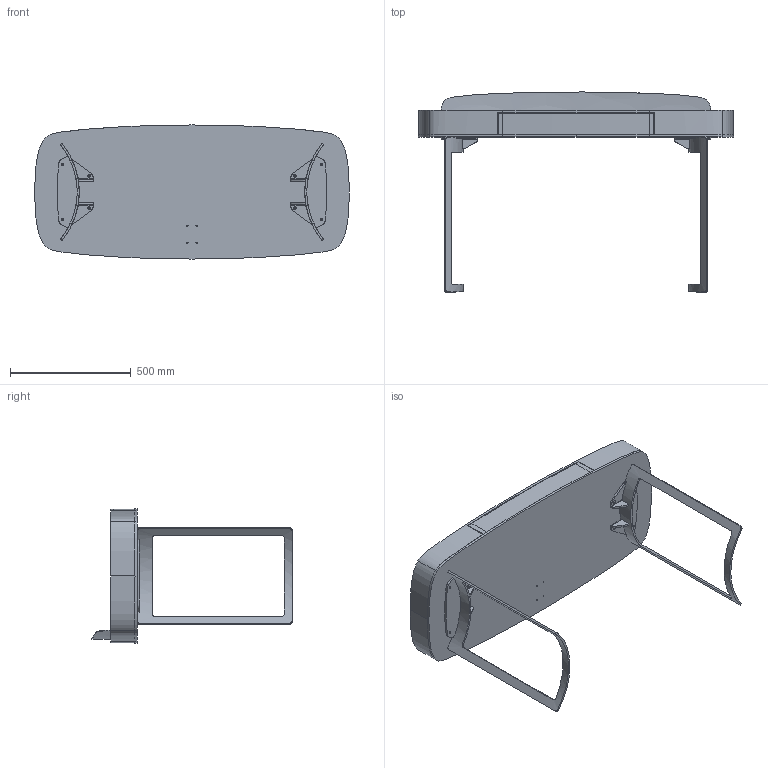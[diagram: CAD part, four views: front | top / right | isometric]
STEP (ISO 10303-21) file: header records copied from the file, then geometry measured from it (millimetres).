
FILE_DESCRIPTION (( 'STEP AP203' ), '1' );
FILE_NAME ('LY01W_Lyra Desk_130x61x75h.STEP', '2024-08-06T07:16:23', ( '' ), ( '' ), 'SwSTEP 2.0', 'SolidWorks 2022', '' );
FILE_SCHEMA (( 'CONFIG_CONTROL_DESIGN' ));
Length unit declared in the file: millimetre
Products named in the file (7): LY01W_Lyra Desk_130x61x75h; SCR000000GXX-00-PIASTRA DI FISSAGGIO SUPERIORE; LIR0000000PNO_01-00-LIRA STRUTTURA SCRIVANIA; SCR000000GXX-00-SCRIVANIE GAMBA_GAMBA H.64cm PER  ICON; LIR0000000PNO_02-00-LIRA LACCATO SOTTOSCRIVANIA; SCR000000G69-02-GAMBA H.69cm PER ICON E LIRA_GAMBA 64; SCRC000V05-00-LYRA_ICON CORNICE TOP VERNICIATA V05 BRONZO GOFFRATO.SLDDRW_piegata
Assembly tree (7 placements, depth 3):
  LY01W_Lyra Desk_130x61x75h
    LIR0000000PNO_02-00-LIRA LACCATO SOTTOSCRIVANIA
    LIR0000000PNO_01-00-LIRA STRUTTURA SCRIVANIA
    SCR000000G69-02-GAMBA H.69cm PER ICON E LIRA_GAMBA 64  x2
      SCR000000GXX-00-SCRIVANIE GAMBA_GAMBA H.64cm PER  ICON
      SCR000000GXX-00-PIASTRA DI FISSAGGIO SUPERIORE
    SCRC000V05-00-LYRA_ICON CORNICE TOP VERNICIATA V05 BRONZO GOFFRATO.SLDDRW_piegata
Bounding box: 1302 x 826.94 x 554 mm (x, y, z)
Volume: 52138847.3 mm3; surface area: 4901067.1 mm2
Topology: 12 solids, 12 shells, 410 faces, 1103 edges, 710 vertices
Faces by surface type: cylinder 186, plane 165, bspline 39, cone 20
Entity records: 11991 total; most frequent: CARTESIAN_POINT 3966, ORIENTED_EDGE 1606, DIRECTION 1346, EDGE_CURVE 803, VERTEX_POINT 526, AXIS2_PLACEMENT_3D 486, VECTOR 374, LINE 374
